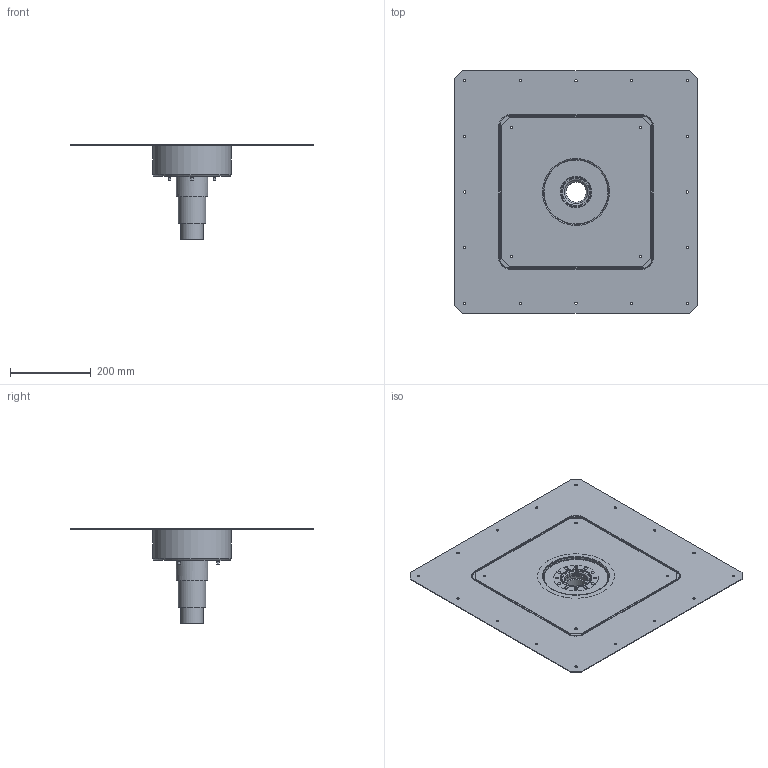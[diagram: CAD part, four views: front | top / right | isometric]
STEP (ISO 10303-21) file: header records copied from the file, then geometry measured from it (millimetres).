
FILE_DESCRIPTION(/* description */ (''),/* implementation_level */ '2;1');
FILE_NAME(/* name */ 'C:\Planerdaten\Export PLA\359.360.00.1\stp\359360.stp',/* time_stamp */ '2020-11-30T13:15:48+01:00',/* author */ ('JANAN'),/* organization */ (''),/* preprocessor_version */ 'ST-DEVELOPER v16.13',/* originating_system */ 'Autodesk Inventor 2018',/* authorisation */ '');
FILE_SCHEMA (('AUTOMOTIVE_DESIGN { 1 0 10303 214 3 1 1 }'));
Length unit declared in the file: millimetre
Products named in the file (1): tmpD6DC.tmp
Bounding box: 600 x 600 x 234.5 mm (x, y, z)
Volume: 1120122.6 mm3; surface area: 1277075.9 mm2
Topology: 11 solids, 15 shells, 272 faces, 629 edges, 409 vertices
Faces by surface type: cylinder 111, plane 92, bspline 26, cone 25, torus 14, sphere 4
Full cylindrical faces by diameter (mm): 4.8 x7, 5.2 x4, 6 x27, 7 x3, 7.5 x7, 8 x24, 49.95 x1, 56 x1, 56.25 x1, 56.8 x1, 57.6 x1, 58.6 x1, 60.6 x1, 61.2 x1, 63.1 x1, 65.2 x1, 65.7 x1, 66 x1, 68 x1, 70 x1, 72 x1, 75 x1, 78 x2, 110 x2, 190 x2, 193 x1
Entity records: 11624 total; most frequent: CARTESIAN_POINT 5532, DIRECTION 1168, ORIENTED_EDGE 914, EDGE_LOOP 576, AXIS2_PLACEMENT_3D 512, EDGE_CURVE 457, VERTEX_POINT 377, FACE_BOUND 306
